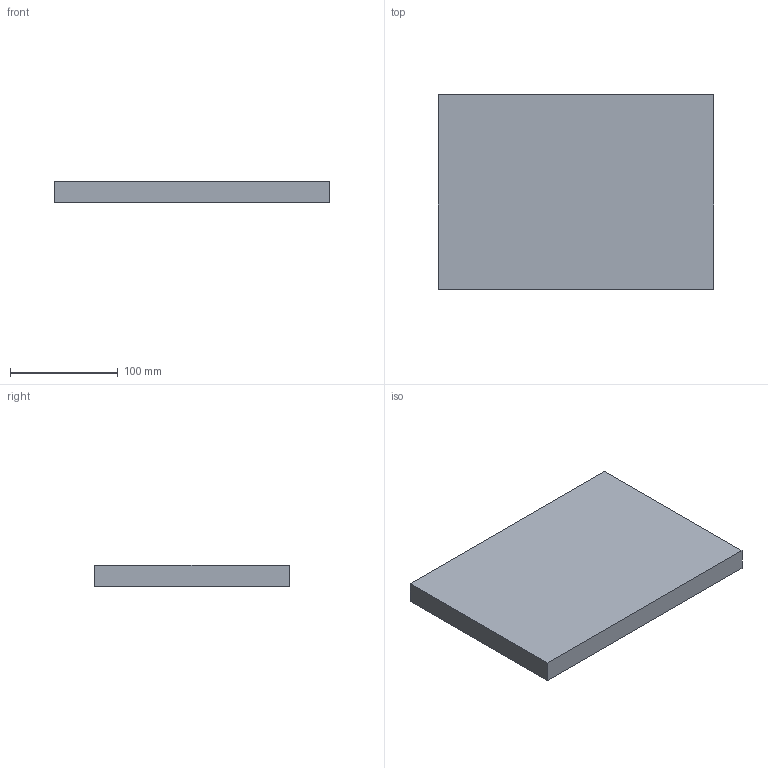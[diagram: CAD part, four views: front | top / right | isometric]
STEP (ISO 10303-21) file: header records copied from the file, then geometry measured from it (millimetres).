
FILE_DESCRIPTION(('Open CASCADE Model'),'2;1');
FILE_NAME('Open CASCADE Shape Model','2026-09-19T12:55:24',('Author'),( 'Open CASCADE'),'Open CASCADE STEP processor 7.9','Open CASCADE 7.9' ,'Unknown');
FILE_SCHEMA(('AUTOMOTIVE_DESIGN { 1 0 10303 214 1 1 1 1 }'));
Length unit declared in the file: millimetre
Products named in the file (1): Open CASCADE STEP translator 7.9 435
Bounding box: 255 x 180 x 20 mm (x, y, z)
Volume: 918000 mm3; surface area: 109200 mm2
Topology: 1 solids, 1 shells, 6 faces, 12 edges, 8 vertices
Faces by surface type: plane 6
Entity records: 322 total; most frequent: CARTESIAN_POINT 51, DIRECTION 50, LINE 36, VECTOR 36, ORIENTED_EDGE 24, PCURVE 24, DEFINITIONAL_REPRESENTATION 24, EDGE_CURVE 12
